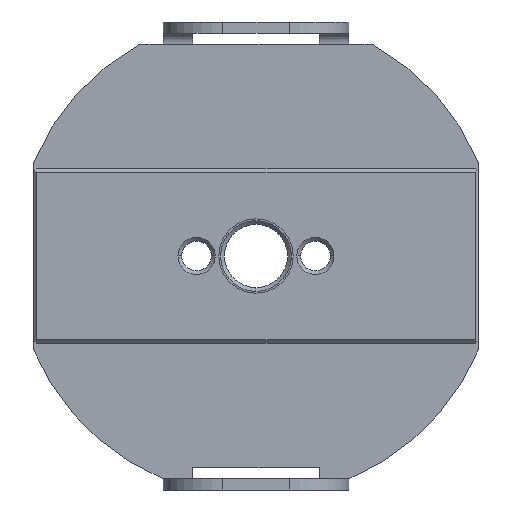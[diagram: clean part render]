
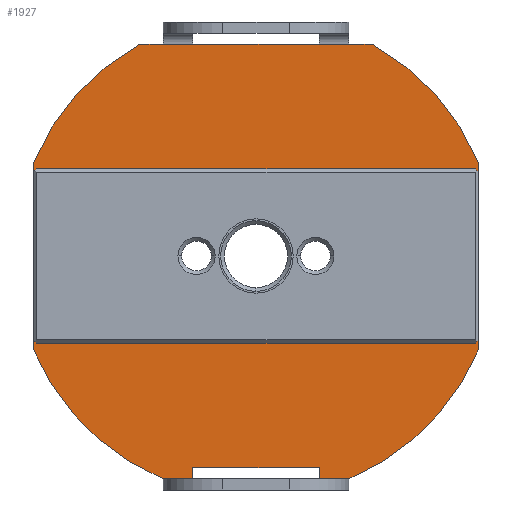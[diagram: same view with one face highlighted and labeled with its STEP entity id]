
A CAD part, front view. The second image highlights one B-rep face of the part: STEP entity #1927.
In plain terms, the highlighted planar face has unit normal (0, -1, 0).
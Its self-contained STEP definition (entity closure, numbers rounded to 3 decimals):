
#178=DIRECTION('',(-1.,0.,0.));
#179=VECTOR('',#178,4.);
#180=CARTESIAN_POINT('',(12.504,0.,28.498));
#181=LINE('',#180,#179);
#584=CARTESIAN_POINT('',(16.,0.,0.));
#585=DIRECTION('',(0.,1.,0.));
#586=DIRECTION('',(1.,0.,0.));
#587=AXIS2_PLACEMENT_3D('',#584,#585,#586);
#592=CARTESIAN_POINT('',(16.,0.,0.));
#593=DIRECTION('',(0.,1.,0.));
#594=DIRECTION('',(-1.,0.,0.));
#595=AXIS2_PLACEMENT_3D('',#592,#593,#594);
#600=CARTESIAN_POINT('',(-16.,0.,0.));
#601=DIRECTION('',(0.,1.,0.));
#602=DIRECTION('',(1.,0.,0.));
#603=AXIS2_PLACEMENT_3D('',#600,#601,#602);
#608=CARTESIAN_POINT('',(-16.,0.,0.));
#609=DIRECTION('',(0.,1.,0.));
#610=DIRECTION('',(-1.,0.,0.));
#611=AXIS2_PLACEMENT_3D('',#608,#609,#610);
#616=DIRECTION('',(0.,0.,1.));
#617=VECTOR('',#616,1.504);
#618=CARTESIAN_POINT('',(8.504,0.,-30.002));
#619=LINE('',#618,#617);
#623=DIRECTION('',(-1.,0.,0.));
#624=VECTOR('',#623,17.008);
#625=CARTESIAN_POINT('',(8.504,0.,-28.498));
#626=LINE('',#625,#624);
#630=DIRECTION('',(0.,0.,1.));
#631=VECTOR('',#630,1.504);
#632=CARTESIAN_POINT('',(-8.504,0.,-30.002));
#633=LINE('',#632,#631);
#637=CARTESIAN_POINT('',(0.,0.,0.));
#638=DIRECTION('',(0.,1.,0.));
#639=DIRECTION('',(-0.384,0.,-0.923));
#640=AXIS2_PLACEMENT_3D('',#637,#638,#639);
#645=DIRECTION('',(0.,0.,1.));
#646=VECTOR('',#645,25.008);
#647=CARTESIAN_POINT('',(-29.998,0.,-12.504));
#648=LINE('',#647,#646);
#652=CARTESIAN_POINT('',(0.,0.,0.));
#653=DIRECTION('',(0.,1.,0.));
#654=DIRECTION('',(-0.923,0.,0.385));
#655=AXIS2_PLACEMENT_3D('',#652,#653,#654);
#660=DIRECTION('',(-1.,0.,0.));
#661=VECTOR('',#660,3.119);
#662=CARTESIAN_POINT('',(-12.504,0.,28.498));
#663=LINE('',#662,#661);
#667=DIRECTION('',(-1.,0.,0.));
#668=VECTOR('',#667,17.008);
#669=CARTESIAN_POINT('',(8.504,0.,28.498));
#670=LINE('',#669,#668);
#674=DIRECTION('',(1.,0.,0.));
#675=VECTOR('',#674,3.119);
#676=CARTESIAN_POINT('',(12.504,0.,28.498));
#677=LINE('',#676,#675);
#681=CARTESIAN_POINT('',(0.,0.,0.));
#682=DIRECTION('',(0.,1.,0.));
#683=DIRECTION('',(0.481,0.,0.877));
#684=AXIS2_PLACEMENT_3D('',#681,#682,#683);
#689=DIRECTION('',(0.,0.,-1.));
#690=VECTOR('',#689,25.008);
#691=CARTESIAN_POINT('',(30.002,0.,12.496));
#692=LINE('',#691,#690);
#696=CARTESIAN_POINT('',(0.,0.,0.));
#697=DIRECTION('',(0.,1.,0.));
#698=DIRECTION('',(0.923,0.,-0.385));
#699=AXIS2_PLACEMENT_3D('',#696,#697,#698);
#704=DIRECTION('',(1.,0.,0.));
#705=VECTOR('',#704,15.);
#706=CARTESIAN_POINT('',(-7.5,0.,-5.));
#707=LINE('',#706,#705);
#711=CARTESIAN_POINT('',(7.5,0.,0.));
#712=DIRECTION('',(0.,1.,0.));
#713=DIRECTION('',(0.,0.,1.));
#714=AXIS2_PLACEMENT_3D('',#711,#712,#713);
#719=DIRECTION('',(-1.,0.,0.));
#720=VECTOR('',#719,15.);
#721=CARTESIAN_POINT('',(7.5,0.,5.));
#722=LINE('',#721,#720);
#726=CARTESIAN_POINT('',(-7.5,0.,0.));
#727=DIRECTION('',(0.,1.,0.));
#728=DIRECTION('',(0.,0.,-1.));
#729=AXIS2_PLACEMENT_3D('',#726,#727,#728);
#748=DIRECTION('',(1.,0.,0.));
#749=VECTOR('',#748,4.008);
#750=CARTESIAN_POINT('',(8.504,0.,-30.002));
#751=LINE('',#750,#749);
#771=DIRECTION('',(1.,0.,0.));
#772=VECTOR('',#771,3.992);
#773=CARTESIAN_POINT('',(-12.496,0.,-30.002));
#774=LINE('',#773,#772);
#1146=DIRECTION('',(-1.,0.,0.));
#1147=VECTOR('',#1146,4.);
#1148=CARTESIAN_POINT('',(-8.504,0.,28.498));
#1149=LINE('',#1148,#1147);
#1209=CARTESIAN_POINT('',(30.002,0.,12.496));
#1210=CARTESIAN_POINT('',(30.002,0.,-12.513));
#1211=VERTEX_POINT('',#1209);
#1212=VERTEX_POINT('',#1210);
#1213=CARTESIAN_POINT('',(12.513,0.,-30.002));
#1214=VERTEX_POINT('',#1213);
#1215=CARTESIAN_POINT('',(-12.496,0.,-30.002));
#1216=CARTESIAN_POINT('',(-29.998,0.,-12.504));
#1217=VERTEX_POINT('',#1215);
#1218=VERTEX_POINT('',#1216);
#1219=CARTESIAN_POINT('',(-29.998,0.,12.504));
#1220=VERTEX_POINT('',#1219);
#1281=CARTESIAN_POINT('',(17.86,0.,0.));
#1282=VERTEX_POINT('',#1281);
#1283=CARTESIAN_POINT('',(14.14,0.,0.));
#1284=VERTEX_POINT('',#1283);
#1285=CARTESIAN_POINT('',(-14.14,0.,0.));
#1287=VERTEX_POINT('',#1285);
#1289=CARTESIAN_POINT('',(-17.86,0.,0.));
#1291=VERTEX_POINT('',#1289);
#1317=CARTESIAN_POINT('',(12.504,0.,28.498));
#1318=CARTESIAN_POINT('',(15.624,0.,28.498));
#1319=VERTEX_POINT('',#1317);
#1320=VERTEX_POINT('',#1318);
#1325=CARTESIAN_POINT('',(-12.504,0.,28.498));
#1326=CARTESIAN_POINT('',(-15.624,0.,28.498));
#1327=VERTEX_POINT('',#1325);
#1328=VERTEX_POINT('',#1326);
#1333=CARTESIAN_POINT('',(-8.504,0.,28.498));
#1334=VERTEX_POINT('',#1333);
#1335=CARTESIAN_POINT('',(8.504,0.,28.498));
#1336=VERTEX_POINT('',#1335);
#1341=CARTESIAN_POINT('',(8.504,0.,-28.498));
#1342=CARTESIAN_POINT('',(-8.504,0.,-28.498));
#1343=VERTEX_POINT('',#1341);
#1344=VERTEX_POINT('',#1342);
#1345=CARTESIAN_POINT('',(-8.504,0.,-30.002));
#1346=VERTEX_POINT('',#1345);
#1347=CARTESIAN_POINT('',(8.504,0.,-30.002));
#1348=VERTEX_POINT('',#1347);
#1377=CARTESIAN_POINT('',(-7.5,0.,-5.));
#1378=CARTESIAN_POINT('',(7.5,0.,-5.));
#1379=VERTEX_POINT('',#1377);
#1380=VERTEX_POINT('',#1378);
#1381=CARTESIAN_POINT('',(7.5,0.,5.));
#1382=VERTEX_POINT('',#1381);
#1383=CARTESIAN_POINT('',(-7.5,0.,5.));
#1384=VERTEX_POINT('',#1383);
#1869=CARTESIAN_POINT('',(0.,0.,0.));
#1870=DIRECTION('',(0.,1.,0.));
#1871=DIRECTION('',(1.,0.,0.));
#1872=AXIS2_PLACEMENT_3D('',#1869,#1870,#1871);
#1873=PLANE('',#1872);
#1875=ORIENTED_EDGE('',*,*,#1874,.F.);
#1877=ORIENTED_EDGE('',*,*,#1876,.T.);
#1879=ORIENTED_EDGE('',*,*,#1878,.T.);
#1881=ORIENTED_EDGE('',*,*,#1880,.F.);
#1883=ORIENTED_EDGE('',*,*,#1882,.F.);
#1885=ORIENTED_EDGE('',*,*,#1884,.T.);
#1887=ORIENTED_EDGE('',*,*,#1886,.T.);
#1889=ORIENTED_EDGE('',*,*,#1888,.T.);
#1891=ORIENTED_EDGE('',*,*,#1890,.F.);
#1893=ORIENTED_EDGE('',*,*,#1892,.F.);
#1895=ORIENTED_EDGE('',*,*,#1894,.F.);
#1896=ORIENTED_EDGE('',*,*,#1526,.F.);
#1898=ORIENTED_EDGE('',*,*,#1897,.T.);
#1900=ORIENTED_EDGE('',*,*,#1899,.T.);
#1902=ORIENTED_EDGE('',*,*,#1901,.T.);
#1904=ORIENTED_EDGE('',*,*,#1903,.T.);
#1905=EDGE_LOOP('',(#1875,#1877,#1879,#1881,#1883,#1885,#1887,#1889,#1891,#1893,
#1895,#1896,#1898,#1900,#1902,#1904));
#1906=FACE_OUTER_BOUND('',#1905,.F.);
#1908=ORIENTED_EDGE('',*,*,#1907,.F.);
#1910=ORIENTED_EDGE('',*,*,#1909,.F.);
#1911=EDGE_LOOP('',(#1908,#1910));
#1912=FACE_BOUND('',#1911,.F.);
#1913=ORIENTED_EDGE('',*,*,#1835,.F.);
#1914=ORIENTED_EDGE('',*,*,#1856,.F.);
#1915=EDGE_LOOP('',(#1913,#1914));
#1916=FACE_BOUND('',#1915,.F.);
#1918=ORIENTED_EDGE('',*,*,#1917,.T.);
#1920=ORIENTED_EDGE('',*,*,#1919,.F.);
#1922=ORIENTED_EDGE('',*,*,#1921,.T.);
#1924=ORIENTED_EDGE('',*,*,#1923,.F.);
#1925=EDGE_LOOP('',(#1918,#1920,#1922,#1924));
#1926=FACE_BOUND('',#1925,.F.);
#588=CIRCLE('',#587,1.86);
#596=CIRCLE('',#595,1.86);
#604=CIRCLE('',#603,1.86);
#612=CIRCLE('',#611,1.86);
#641=CIRCLE('',#640,32.5);
#656=CIRCLE('',#655,32.5);
#685=CIRCLE('',#684,32.5);
#700=CIRCLE('',#699,32.507);
#715=CIRCLE('',#714,5.);
#730=CIRCLE('',#729,5.);
#1526=EDGE_CURVE('',#1319,#1336,#181,.T.);
#1835=EDGE_CURVE('',#1282,#1284,#588,.T.);
#1856=EDGE_CURVE('',#1284,#1282,#596,.T.);
#1874=EDGE_CURVE('',#1348,#1214,#751,.T.);
#1876=EDGE_CURVE('',#1348,#1343,#619,.T.);
#1878=EDGE_CURVE('',#1343,#1344,#626,.T.);
#1880=EDGE_CURVE('',#1346,#1344,#633,.T.);
#1882=EDGE_CURVE('',#1217,#1346,#774,.T.);
#1884=EDGE_CURVE('',#1217,#1218,#641,.T.);
#1886=EDGE_CURVE('',#1218,#1220,#648,.T.);
#1888=EDGE_CURVE('',#1220,#1328,#656,.T.);
#1890=EDGE_CURVE('',#1327,#1328,#663,.T.);
#1892=EDGE_CURVE('',#1334,#1327,#1149,.T.);
#1894=EDGE_CURVE('',#1336,#1334,#670,.T.);
#1897=EDGE_CURVE('',#1319,#1320,#677,.T.);
#1899=EDGE_CURVE('',#1320,#1211,#685,.T.);
#1901=EDGE_CURVE('',#1211,#1212,#692,.T.);
#1903=EDGE_CURVE('',#1212,#1214,#700,.T.);
#1907=EDGE_CURVE('',#1287,#1291,#604,.T.);
#1909=EDGE_CURVE('',#1291,#1287,#612,.T.);
#1917=EDGE_CURVE('',#1379,#1380,#707,.T.);
#1919=EDGE_CURVE('',#1382,#1380,#715,.T.);
#1921=EDGE_CURVE('',#1382,#1384,#722,.T.);
#1923=EDGE_CURVE('',#1379,#1384,#730,.T.);
#1927=ADVANCED_FACE('',(#1906,#1912,#1916,#1926),#1873,.F.);
